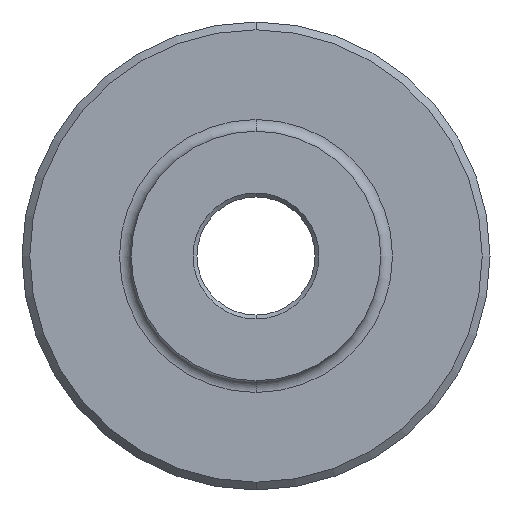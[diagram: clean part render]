
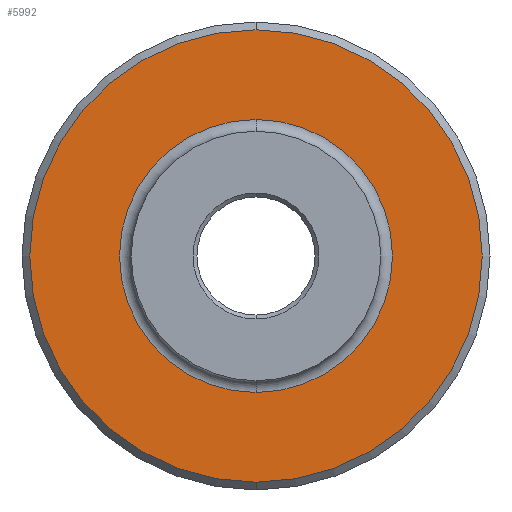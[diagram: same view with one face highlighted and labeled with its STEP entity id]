
A CAD part, front view. The second image highlights one B-rep face of the part: STEP entity #5992.
In plain terms, the highlighted planar face has unit normal (0, -1, 0).
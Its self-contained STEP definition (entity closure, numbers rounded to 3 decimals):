
#241 = CARTESIAN_POINT ( 'NONE',  ( 158.575, -154.471, 281.918 ) ) ;
#1758 = AXIS2_PLACEMENT_3D ( 'NONE', #29554, #7091, #26619 ) ;
#2157 = CARTESIAN_POINT ( 'NONE',  ( 158.575, -154.471, 374.918 ) ) ;
#2224 = EDGE_LOOP ( 'NONE', ( #8373, #21049 ) ) ;
#2234 = DIRECTION ( 'NONE',  ( 0., -1., 0. ) ) ;
#2791 = CARTESIAN_POINT ( 'NONE',  ( 158.575, -154.471, 316.918 ) ) ;
#2974 = DIRECTION ( 'NONE',  ( 0., 1., 0. ) ) ;
#4778 = PLANE ( 'NONE',  #28436 ) ;
#4901 = EDGE_CURVE ( 'NONE', #27682, #8707, #22505, .T. ) ;
#4966 = EDGE_CURVE ( 'NONE', #8707, #27682, #7211, .T. ) ;
#5177 = VERTEX_POINT ( 'NONE', #9260 ) ;
#5992 = ADVANCED_FACE ( 'NONE', ( #7569, #26565 ), #4778, .F. ) ;
#7091 = DIRECTION ( 'NONE',  ( 0., -1., 0. ) ) ;
#7211 = CIRCLE ( 'NONE', #31318, 35. ) ;
#7569 = FACE_OUTER_BOUND ( 'NONE', #25285, .T. ) ;
#8373 = ORIENTED_EDGE ( 'NONE', *, *, #4901, .T. ) ;
#8707 = VERTEX_POINT ( 'NONE', #241 ) ;
#9260 = CARTESIAN_POINT ( 'NONE',  ( 158.575, -154.471, 258.918 ) ) ;
#11651 = DIRECTION ( 'NONE',  ( 0., 0., 1. ) ) ;
#13402 = VERTEX_POINT ( 'NONE', #2157 ) ;
#14201 = CARTESIAN_POINT ( 'NONE',  ( 158.575, -154.471, 316.918 ) ) ;
#15509 = CARTESIAN_POINT ( 'NONE',  ( 158.575, -154.471, 351.918 ) ) ;
#15947 = EDGE_CURVE ( 'NONE', #5177, #13402, #25761, .T. ) ;
#19192 = DIRECTION ( 'NONE',  ( 0., 0., 1. ) ) ;
#19492 = DIRECTION ( 'NONE',  ( 0., 1., 0. ) ) ;
#19967 = DIRECTION ( 'NONE',  ( 0., 0., 1. ) ) ;
#20431 = ORIENTED_EDGE ( 'NONE', *, *, #15947, .T. ) ;
#21049 = ORIENTED_EDGE ( 'NONE', *, *, #4966, .T. ) ;
#22201 = ORIENTED_EDGE ( 'NONE', *, *, #22833, .T. ) ;
#22505 = CIRCLE ( 'NONE', #27205, 35. ) ;
#22833 = EDGE_CURVE ( 'NONE', #13402, #5177, #34729, .T. ) ;
#25285 = EDGE_LOOP ( 'NONE', ( #22201, #20431 ) ) ;
#25481 = CARTESIAN_POINT ( 'NONE',  ( 158.575, -154.471, 316.918 ) ) ;
#25734 = AXIS2_PLACEMENT_3D ( 'NONE', #25481, #2234, #19192 ) ;
#25761 = CIRCLE ( 'NONE', #25734, 58. ) ;
#26565 = FACE_BOUND ( 'NONE', #2224, .T. ) ;
#26619 = DIRECTION ( 'NONE',  ( 0., 0., 1. ) ) ;
#27205 = AXIS2_PLACEMENT_3D ( 'NONE', #2791, #30844, #11651 ) ;
#27682 = VERTEX_POINT ( 'NONE', #15509 ) ;
#28436 = AXIS2_PLACEMENT_3D ( 'NONE', #30215, #19492, #30396 ) ;
#29554 = CARTESIAN_POINT ( 'NONE',  ( 158.575, -154.471, 316.918 ) ) ;
#30215 = CARTESIAN_POINT ( 'NONE',  ( 158.575, -154.471, 316.918 ) ) ;
#30396 = DIRECTION ( 'NONE',  ( 0., 0., 1. ) ) ;
#30844 = DIRECTION ( 'NONE',  ( 0., 1., 0. ) ) ;
#31318 = AXIS2_PLACEMENT_3D ( 'NONE', #14201, #2974, #19967 ) ;
#34729 = CIRCLE ( 'NONE', #1758, 58. ) ;
